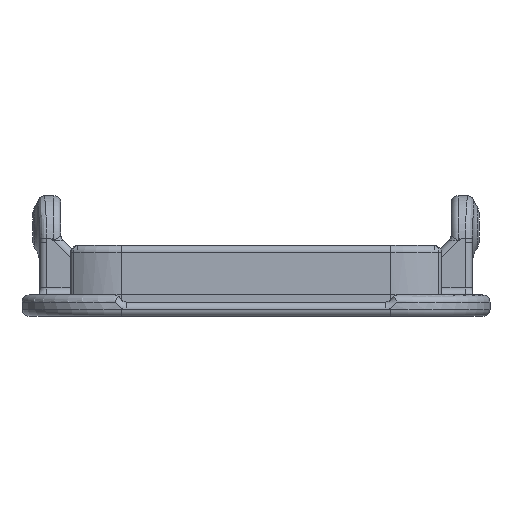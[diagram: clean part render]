
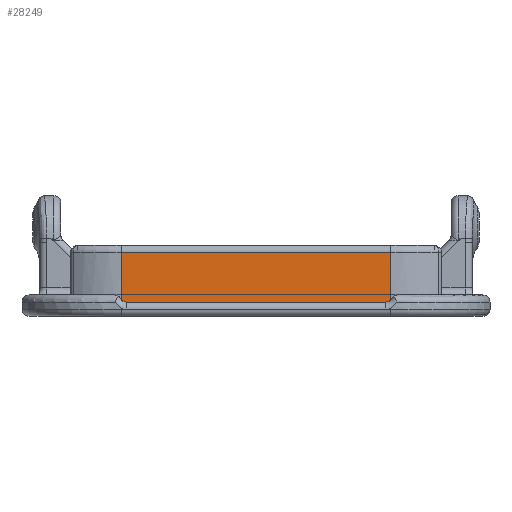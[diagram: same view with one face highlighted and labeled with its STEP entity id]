
A CAD part, left-side view. The second image highlights one B-rep face of the part: STEP entity #28249.
In plain terms, the highlighted planar face has unit normal (-1, 0, 0).
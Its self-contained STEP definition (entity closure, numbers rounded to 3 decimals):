
#1466 = VECTOR ( 'NONE', #34862, 1000. ) ;
#1895 = LINE ( 'NONE', #55778, #40568 ) ;
#2586 = CARTESIAN_POINT ( 'NONE',  ( -65., -9.134, 1. ) ) ;
#4542 = CIRCLE ( 'NONE', #57788, 0.5 ) ;
#5474 = AXIS2_PLACEMENT_3D ( 'NONE', #14455, #19877, #9653 ) ;
#6986 = CARTESIAN_POINT ( 'NONE',  ( -65., -9.5, 1.159 ) ) ;
#7238 = LINE ( 'NONE', #17169, #26303 ) ;
#8907 = AXIS2_PLACEMENT_3D ( 'NONE', #46825, #16677, #37166 ) ;
#9653 = DIRECTION ( 'NONE',  ( 0., 0., -1. ) ) ;
#10130 = CARTESIAN_POINT ( 'NONE',  ( -65., 9.134, 1. ) ) ;
#11941 = VERTEX_POINT ( 'NONE', #25277 ) ;
#14455 = CARTESIAN_POINT ( 'NONE',  ( -65., -9.134, 1.5 ) ) ;
#16312 = ORIENTED_EDGE ( 'NONE', *, *, #58787, .T. ) ;
#16677 = DIRECTION ( 'NONE',  ( 1., 0., 0. ) ) ;
#17169 = CARTESIAN_POINT ( 'NONE',  ( -65., 9.5, 1. ) ) ;
#17659 = EDGE_CURVE ( 'NONE', #45699, #34824, #4542, .T. ) ;
#18147 = ORIENTED_EDGE ( 'NONE', *, *, #17659, .T. ) ;
#18645 = ORIENTED_EDGE ( 'NONE', *, *, #27842, .F. ) ;
#19877 = DIRECTION ( 'NONE',  ( -1., 0., 0. ) ) ;
#20282 = LINE ( 'NONE', #49456, #56604 ) ;
#23698 = EDGE_LOOP ( 'NONE', ( #43116, #16312, #60795, #18147, #18645, #39513 ) ) ;
#25277 = CARTESIAN_POINT ( 'NONE',  ( -65., -9.5, 4.5 ) ) ;
#26303 = VECTOR ( 'NONE', #56276, 1000. ) ;
#26905 = FACE_OUTER_BOUND ( 'NONE', #23698, .T. ) ;
#27243 = CARTESIAN_POINT ( 'NONE',  ( -65., 9.5, 4.5 ) ) ;
#27735 = CARTESIAN_POINT ( 'NONE',  ( -65., 9.134, 1.5 ) ) ;
#27842 = EDGE_CURVE ( 'NONE', #54287, #34824, #7238, .T. ) ;
#28249 = ADVANCED_FACE ( 'NONE', ( #26905 ), #46484, .F. ) ;
#32890 = EDGE_CURVE ( 'NONE', #54287, #44169, #49507, .T. ) ;
#34156 = VERTEX_POINT ( 'NONE', #27243 ) ;
#34824 = VERTEX_POINT ( 'NONE', #10130 ) ;
#34862 = DIRECTION ( 'NONE',  ( 0., 0., -1. ) ) ;
#36993 = CARTESIAN_POINT ( 'NONE',  ( -65., 9.5, 1.159 ) ) ;
#37166 = DIRECTION ( 'NONE',  ( 0., 0., -1. ) ) ;
#39513 = ORIENTED_EDGE ( 'NONE', *, *, #32890, .T. ) ;
#40568 = VECTOR ( 'NONE', #61234, 1000. ) ;
#42487 = DIRECTION ( 'NONE',  ( -1., 0., 0. ) ) ;
#43116 = ORIENTED_EDGE ( 'NONE', *, *, #62578, .F. ) ;
#43858 = LINE ( 'NONE', #48358, #1466 ) ;
#44169 = VERTEX_POINT ( 'NONE', #6986 ) ;
#44312 = DIRECTION ( 'NONE',  ( 0., 1., 0. ) ) ;
#44961 = EDGE_CURVE ( 'NONE', #34156, #45699, #1895, .T. ) ;
#45699 = VERTEX_POINT ( 'NONE', #36993 ) ;
#46484 = PLANE ( 'NONE',  #8907 ) ;
#46825 = CARTESIAN_POINT ( 'NONE',  ( -65., 9.5, 5. ) ) ;
#48358 = CARTESIAN_POINT ( 'NONE',  ( -65., -9.5, 5. ) ) ;
#49456 = CARTESIAN_POINT ( 'NONE',  ( -65., 9.5, 4.5 ) ) ;
#49507 = CIRCLE ( 'NONE', #5474, 0.5 ) ;
#50868 = DIRECTION ( 'NONE',  ( 0., 0., -1. ) ) ;
#54287 = VERTEX_POINT ( 'NONE', #2586 ) ;
#55778 = CARTESIAN_POINT ( 'NONE',  ( -65., 9.5, 5. ) ) ;
#56276 = DIRECTION ( 'NONE',  ( 0., 1., 0. ) ) ;
#56604 = VECTOR ( 'NONE', #44312, 1000. ) ;
#57788 = AXIS2_PLACEMENT_3D ( 'NONE', #27735, #42487, #50868 ) ;
#58787 = EDGE_CURVE ( 'NONE', #11941, #34156, #20282, .T. ) ;
#60795 = ORIENTED_EDGE ( 'NONE', *, *, #44961, .T. ) ;
#61234 = DIRECTION ( 'NONE',  ( 0., 0., -1. ) ) ;
#62578 = EDGE_CURVE ( 'NONE', #11941, #44169, #43858, .T. ) ;
